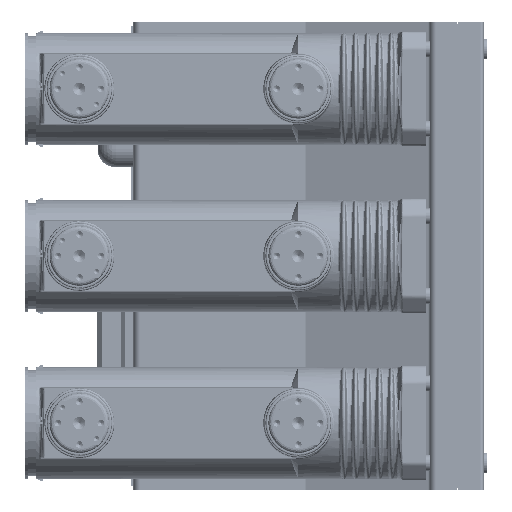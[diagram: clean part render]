
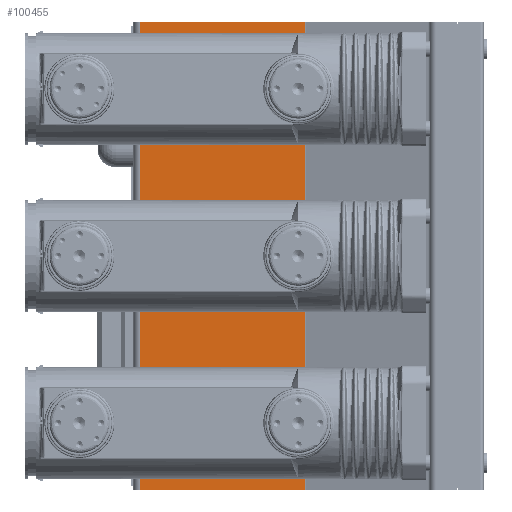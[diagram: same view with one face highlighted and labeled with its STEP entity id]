
A CAD part, left-side view. The second image highlights one B-rep face of the part: STEP entity #100455.
In plain terms, the highlighted planar face has unit normal (-1, 0, 0).
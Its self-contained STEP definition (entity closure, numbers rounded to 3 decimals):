
#53 = DIRECTION ( 'NONE',  ( -1., 0., 0. ) ) ;
#968 = VERTEX_POINT ( 'NONE', #10017 ) ;
#1120 = CARTESIAN_POINT ( 'NONE',  ( 317.256, 261.916, 226.008 ) ) ;
#1355 = VERTEX_POINT ( 'NONE', #44007 ) ;
#1367 = AXIS2_PLACEMENT_3D ( 'NONE', #116291, #35461, #71423 ) ;
#2018 = DIRECTION ( 'NONE',  ( -1., 0., 0. ) ) ;
#2169 = VERTEX_POINT ( 'NONE', #40034 ) ;
#2411 = CARTESIAN_POINT ( 'NONE',  ( 317.256, 204.916, 449.008 ) ) ;
#3255 = DIRECTION ( 'NONE',  ( 0., 0., 1. ) ) ;
#4169 = ORIENTED_EDGE ( 'NONE', *, *, #102687, .F. ) ;
#5279 = AXIS2_PLACEMENT_3D ( 'NONE', #82539, #2018, #37722 ) ;
#5962 = DIRECTION ( 'NONE',  ( 0., 0., -1. ) ) ;
#8116 = EDGE_CURVE ( 'NONE', #2169, #70817, #74829, .T. ) ;
#8484 = FACE_BOUND ( 'NONE', #14276, .T. ) ;
#8789 = CARTESIAN_POINT ( 'NONE',  ( 317.256, 261.916, 436.008 ) ) ;
#9518 = LINE ( 'NONE', #45350, #31683 ) ;
#9721 = CARTESIAN_POINT ( 'NONE',  ( 317.256, 204.916, 16.008 ) ) ;
#10017 = CARTESIAN_POINT ( 'NONE',  ( 317.256, 207.916, 29.008 ) ) ;
#11785 = LINE ( 'NONE', #47635, #60080 ) ;
#12691 = CARTESIAN_POINT ( 'NONE',  ( 317.256, 207.916, 442.508 ) ) ;
#13660 = VERTEX_POINT ( 'NONE', #2411 ) ;
#14276 = EDGE_LOOP ( 'NONE', ( #71271, #42845, #37293, #80408 ) ) ;
#16722 = EDGE_LOOP ( 'NONE', ( #4169, #64908, #113686, #51376 ) ) ;
#16923 = LINE ( 'NONE', #52776, #96598 ) ;
#17596 = DIRECTION ( 'NONE',  ( 0., 0., 1. ) ) ;
#18109 = VERTEX_POINT ( 'NONE', #39174 ) ;
#18620 = DIRECTION ( 'NONE',  ( 0., -1., 0. ) ) ;
#18883 = LINE ( 'NONE', #54749, #73041 ) ;
#22623 = EDGE_CURVE ( 'NONE', #24159, #2169, #49458, .T. ) ;
#24159 = VERTEX_POINT ( 'NONE', #73155 ) ;
#24835 = EDGE_CURVE ( 'NONE', #32027, #87462, #92299, .T. ) ;
#26867 = AXIS2_PLACEMENT_3D ( 'NONE', #41547, #77498, #113541 ) ;
#27699 = DIRECTION ( 'NONE',  ( -1., 0., 0. ) ) ;
#30083 = DIRECTION ( 'NONE',  ( 0., 1., 0. ) ) ;
#31164 = ORIENTED_EDGE ( 'NONE', *, *, #62780, .F. ) ;
#31683 = VECTOR ( 'NONE', #81283, 1000. ) ;
#31877 = EDGE_CURVE ( 'NONE', #116263, #18109, #18883, .T. ) ;
#31978 = CARTESIAN_POINT ( 'NONE',  ( 317.256, 207.916, 436.008 ) ) ;
#32027 = VERTEX_POINT ( 'NONE', #84789 ) ;
#33415 = VECTOR ( 'NONE', #17596, 1000. ) ;
#33621 = EDGE_LOOP ( 'NONE', ( #31164, #106110, #99353, #50640 ) ) ;
#34795 = VECTOR ( 'NONE', #36822, 1000. ) ;
#35461 = DIRECTION ( 'NONE',  ( 1., 0., 0. ) ) ;
#35752 = DIRECTION ( 'NONE',  ( 0., 0., 1. ) ) ;
#36111 = CARTESIAN_POINT ( 'NONE',  ( 317.256, 204.916, 436.008 ) ) ;
#36822 = DIRECTION ( 'NONE',  ( 0., -1., 0. ) ) ;
#37293 = ORIENTED_EDGE ( 'NONE', *, *, #22623, .F. ) ;
#37722 = DIRECTION ( 'NONE',  ( 0., 0., 1. ) ) ;
#39132 = EDGE_CURVE ( 'NONE', #1355, #106238, #11785, .T. ) ;
#39174 = CARTESIAN_POINT ( 'NONE',  ( 317.256, 54.518, 526.508 ) ) ;
#40034 = CARTESIAN_POINT ( 'NONE',  ( 317.256, 204.916, 239.008 ) ) ;
#41547 = CARTESIAN_POINT ( 'NONE',  ( 317.256, 204.916, 442.508 ) ) ;
#42845 = ORIENTED_EDGE ( 'NONE', *, *, #8116, .F. ) ;
#44007 = CARTESIAN_POINT ( 'NONE',  ( 317.256, 54.518, -61.492 ) ) ;
#44319 = FACE_BOUND ( 'NONE', #104689, .T. ) ;
#44622 = DIRECTION ( 'NONE',  ( 0., -1., 0. ) ) ;
#45350 = CARTESIAN_POINT ( 'NONE',  ( 317.256, 261.916, 449.008 ) ) ;
#46915 = ORIENTED_EDGE ( 'NONE', *, *, #101572, .F. ) ;
#47635 = CARTESIAN_POINT ( 'NONE',  ( 317.256, 261.916, -61.492 ) ) ;
#47843 = CARTESIAN_POINT ( 'NONE',  ( 317.256, 207.916, 232.508 ) ) ;
#48547 = DIRECTION ( 'NONE',  ( -1., 0., 0. ) ) ;
#49379 = AXIS2_PLACEMENT_3D ( 'NONE', #108488, #27699, #63620 ) ;
#49458 = CIRCLE ( 'NONE', #49379, 6.5 ) ;
#50591 = LINE ( 'NONE', #86523, #52279 ) ;
#50595 = VERTEX_POINT ( 'NONE', #91830 ) ;
#50640 = ORIENTED_EDGE ( 'NONE', *, *, #83882, .F. ) ;
#51295 = ORIENTED_EDGE ( 'NONE', *, *, #24835, .F. ) ;
#51376 = ORIENTED_EDGE ( 'NONE', *, *, #39132, .F. ) ;
#52279 = VECTOR ( 'NONE', #5962, 1000. ) ;
#52776 = CARTESIAN_POINT ( 'NONE',  ( 317.256, 261.916, 29.008 ) ) ;
#53129 = FACE_OUTER_BOUND ( 'NONE', #16722, .T. ) ;
#54749 = CARTESIAN_POINT ( 'NONE',  ( 317.256, 261.916, 526.508 ) ) ;
#55427 = EDGE_CURVE ( 'NONE', #77077, #968, #16923, .T. ) ;
#55884 = CIRCLE ( 'NONE', #5279, 6.5 ) ;
#58961 = EDGE_CURVE ( 'NONE', #76506, #13660, #77691, .T. ) ;
#60080 = VECTOR ( 'NONE', #83578, 1000. ) ;
#61239 = ORIENTED_EDGE ( 'NONE', *, *, #58961, .F. ) ;
#61761 = AXIS2_PLACEMENT_3D ( 'NONE', #47843, #83785, #3255 ) ;
#62220 = AXIS2_PLACEMENT_3D ( 'NONE', #80559, #53, #35752 ) ;
#62305 = LINE ( 'NONE', #98259, #33415 ) ;
#62780 = EDGE_CURVE ( 'NONE', #968, #50595, #55884, .T. ) ;
#62799 = ORIENTED_EDGE ( 'NONE', *, *, #111110, .F. ) ;
#63350 = LINE ( 'NONE', #99303, #85662 ) ;
#63620 = DIRECTION ( 'NONE',  ( 0., 0., 1. ) ) ;
#64908 = ORIENTED_EDGE ( 'NONE', *, *, #31877, .F. ) ;
#65136 = CARTESIAN_POINT ( 'NONE',  ( 317.256, 261.916, 526.508 ) ) ;
#66637 = EDGE_CURVE ( 'NONE', #105511, #77077, #113181, .T. ) ;
#70817 = VERTEX_POINT ( 'NONE', #98009 ) ;
#71271 = ORIENTED_EDGE ( 'NONE', *, *, #103431, .F. ) ;
#71384 = CARTESIAN_POINT ( 'NONE',  ( 317.256, 204.916, 29.008 ) ) ;
#71423 = DIRECTION ( 'NONE',  ( 0., 0., -1. ) ) ;
#71823 = CARTESIAN_POINT ( 'NONE',  ( 317.256, 261.916, -61.492 ) ) ;
#73041 = VECTOR ( 'NONE', #90658, 1000. ) ;
#73155 = CARTESIAN_POINT ( 'NONE',  ( 317.256, 204.916, 226.008 ) ) ;
#74829 = LINE ( 'NONE', #110880, #108963 ) ;
#75295 = EDGE_CURVE ( 'NONE', #103256, #24159, #81628, .T. ) ;
#76506 = VERTEX_POINT ( 'NONE', #36111 ) ;
#77077 = VERTEX_POINT ( 'NONE', #71384 ) ;
#77498 = DIRECTION ( 'NONE',  ( -1., 0., 0. ) ) ;
#77691 = CIRCLE ( 'NONE', #26867, 6.5 ) ;
#77976 = CARTESIAN_POINT ( 'NONE',  ( 317.256, 207.916, 226.008 ) ) ;
#80259 = PLANE ( 'NONE',  #1367 ) ;
#80408 = ORIENTED_EDGE ( 'NONE', *, *, #75295, .F. ) ;
#80559 = CARTESIAN_POINT ( 'NONE',  ( 317.256, 204.916, 22.508 ) ) ;
#81283 = DIRECTION ( 'NONE',  ( 0., 1., 0. ) ) ;
#81628 = LINE ( 'NONE', #1120, #34795 ) ;
#82539 = CARTESIAN_POINT ( 'NONE',  ( 317.256, 207.916, 22.508 ) ) ;
#83578 = DIRECTION ( 'NONE',  ( 0., 1., 0. ) ) ;
#83785 = DIRECTION ( 'NONE',  ( -1., 0., 0. ) ) ;
#83882 = EDGE_CURVE ( 'NONE', #50595, #105511, #63350, .T. ) ;
#84482 = DIRECTION ( 'NONE',  ( 0., 0., 1. ) ) ;
#84789 = CARTESIAN_POINT ( 'NONE',  ( 317.256, 207.916, 449.008 ) ) ;
#85662 = VECTOR ( 'NONE', #18620, 1000. ) ;
#86523 = CARTESIAN_POINT ( 'NONE',  ( 317.256, 54.518, 526.508 ) ) ;
#87462 = VERTEX_POINT ( 'NONE', #31978 ) ;
#88687 = DIRECTION ( 'NONE',  ( 0., 1., 0. ) ) ;
#89053 = FACE_BOUND ( 'NONE', #33621, .T. ) ;
#89363 = LINE ( 'NONE', #8789, #93473 ) ;
#90658 = DIRECTION ( 'NONE',  ( 0., -1., 0. ) ) ;
#91830 = CARTESIAN_POINT ( 'NONE',  ( 317.256, 207.916, 16.008 ) ) ;
#92219 = AXIS2_PLACEMENT_3D ( 'NONE', #12691, #48547, #84482 ) ;
#92299 = CIRCLE ( 'NONE', #92219, 6.5 ) ;
#93473 = VECTOR ( 'NONE', #44622, 1000. ) ;
#96598 = VECTOR ( 'NONE', #88687, 1000. ) ;
#98009 = CARTESIAN_POINT ( 'NONE',  ( 317.256, 207.916, 239.008 ) ) ;
#98259 = CARTESIAN_POINT ( 'NONE',  ( 317.256, 261.916, 526.508 ) ) ;
#99303 = CARTESIAN_POINT ( 'NONE',  ( 317.256, 261.916, 16.008 ) ) ;
#99353 = ORIENTED_EDGE ( 'NONE', *, *, #66637, .F. ) ;
#100455 = ADVANCED_FACE ( 'NONE', ( #53129, #89053, #8484, #44319 ), #80259, .F. ) ;
#101572 = EDGE_CURVE ( 'NONE', #87462, #76506, #89363, .T. ) ;
#102687 = EDGE_CURVE ( 'NONE', #18109, #1355, #50591, .T. ) ;
#103256 = VERTEX_POINT ( 'NONE', #77976 ) ;
#103431 = EDGE_CURVE ( 'NONE', #70817, #103256, #112731, .T. ) ;
#104689 = EDGE_LOOP ( 'NONE', ( #51295, #62799, #61239, #46915 ) ) ;
#105511 = VERTEX_POINT ( 'NONE', #9721 ) ;
#106110 = ORIENTED_EDGE ( 'NONE', *, *, #55427, .F. ) ;
#106238 = VERTEX_POINT ( 'NONE', #71823 ) ;
#108488 = CARTESIAN_POINT ( 'NONE',  ( 317.256, 204.916, 232.508 ) ) ;
#108963 = VECTOR ( 'NONE', #30083, 1000. ) ;
#110880 = CARTESIAN_POINT ( 'NONE',  ( 317.256, 261.916, 239.008 ) ) ;
#111110 = EDGE_CURVE ( 'NONE', #13660, #32027, #9518, .T. ) ;
#112365 = EDGE_CURVE ( 'NONE', #106238, #116263, #62305, .T. ) ;
#112731 = CIRCLE ( 'NONE', #61761, 6.5 ) ;
#113181 = CIRCLE ( 'NONE', #62220, 6.5 ) ;
#113541 = DIRECTION ( 'NONE',  ( 0., 0., 1. ) ) ;
#113686 = ORIENTED_EDGE ( 'NONE', *, *, #112365, .F. ) ;
#116263 = VERTEX_POINT ( 'NONE', #65136 ) ;
#116291 = CARTESIAN_POINT ( 'NONE',  ( 317.256, 261.916, 526.508 ) ) ;
